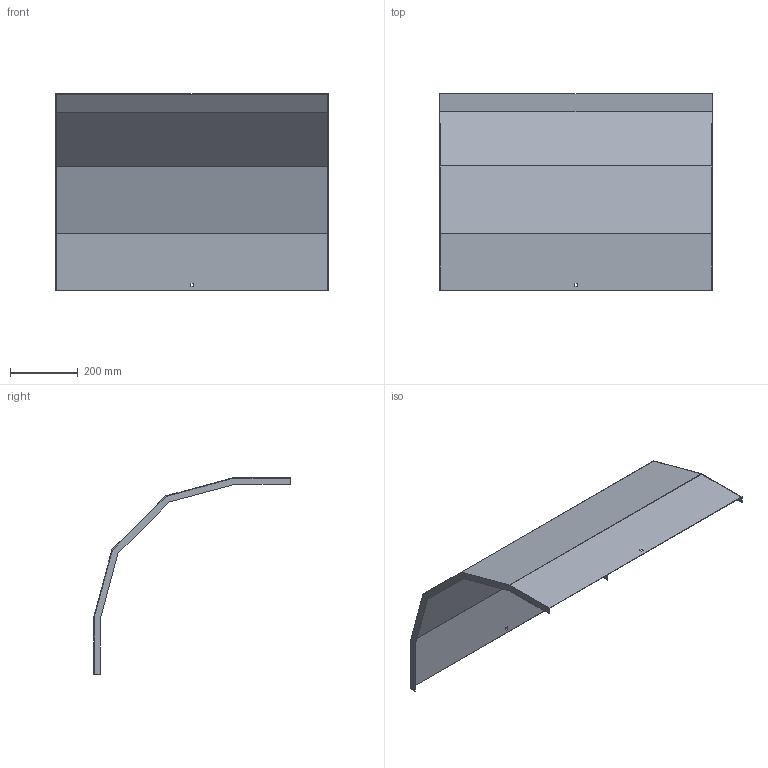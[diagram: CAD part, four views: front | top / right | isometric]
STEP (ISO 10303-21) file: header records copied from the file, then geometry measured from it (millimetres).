
FILE_DESCRIPTION (( 'STEP AP214' ), '1' );
FILE_NAME ('A2_33N3J800.step', '2025-02-21T10:45:48', ( '' ), ( '' ), 'SwSTEP 2.0', 'SolidWorks 2023', '' );
FILE_SCHEMA (( 'AUTOMOTIVE_DESIGN' ));
Length unit declared in the file: millimetre
Products named in the file (1): A2_33N3J800
Bounding box: 803 x 579.05 x 579.05 mm (x, y, z)
Volume: 1222106.7 mm3; surface area: 1634912.3 mm2
Topology: 1 solids, 1 shells, 34 faces, 96 edges, 64 vertices
Faces by surface type: plane 34
Entity records: 1111 total; most frequent: CARTESIAN_POINT 195, ORIENTED_EDGE 192, DIRECTION 166, VECTOR 96, EDGE_CURVE 96, LINE 96, VERTEX_POINT 64, EDGE_LOOP 38
